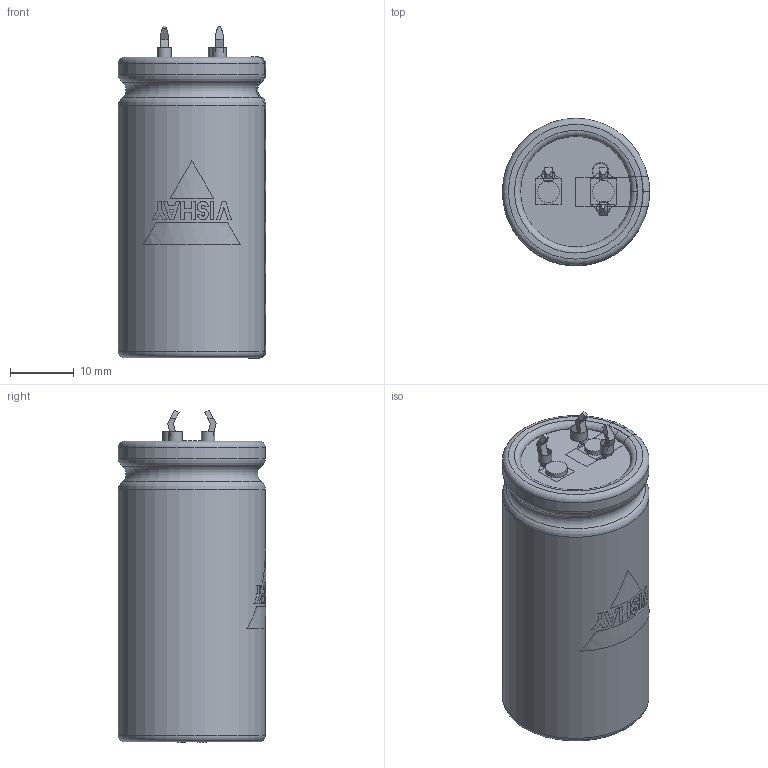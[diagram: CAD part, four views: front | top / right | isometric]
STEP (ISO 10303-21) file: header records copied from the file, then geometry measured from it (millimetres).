
FILE_DESCRIPTION(('FreeCAD Model'),'2;1');
FILE_NAME( 'C:/Users/Gebruiker/Documents/FreeCAD/SnapIn_22x45_3pin_4.0.step', '2020-11-12T21:07:02',('Author'),(''), 'Open CASCADE STEP processor 6.8','FreeCAD','Unknown');
FILE_SCHEMA(('AUTOMOTIVE_DESIGN_CC2 { 1 2 10303 214 -1 1 5 4 }'));
Length unit declared in the file: millimetre
Products named in the file (9): ASSEMBLY; TerminalPlus; Disc; BottomInsulation; Can3D; InkMinusBar; InkLogo; TerminalMinKP; PCBHolesKP
Assembly tree (8 placements, depth 2):
  ASSEMBLY
    TerminalPlus
    Disc
    BottomInsulation
    Can3D
    InkMinusBar
    InkLogo
    TerminalMinKP
    PCBHolesKP
Bounding box: 23.05 x 23.05 x 51.95 mm (x, y, z)
Volume: 21777.4 mm3; surface area: 9515.9 mm2
Topology: 17 solids, 17 shells, 221 faces, 553 edges, 361 vertices
Faces by surface type: plane 172, cylinder 31, torus 18
Full cylindrical faces by diameter (mm): 2 x2, 2.1 x2, 2.5 x1, 2.6 x1, 3.4 x2, 17.3 x1, 18.4 x2, 23 x2
Entity records: 22015 total; most frequent: CARTESIAN_POINT 9718, DIRECTION 1910, ORIENTED_EDGE 1106, PCURVE 1106, DEFINITIONAL_REPRESENTATION 1106, LINE 1079, VECTOR 1079, EDGE_CURVE 553
